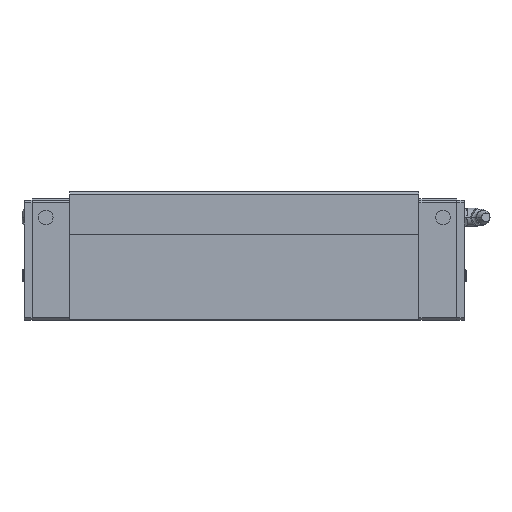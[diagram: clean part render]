
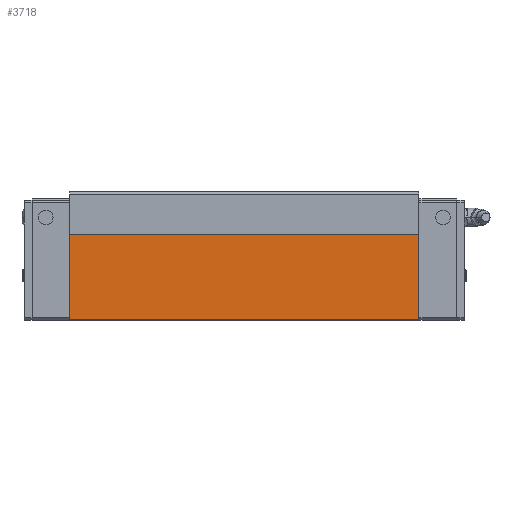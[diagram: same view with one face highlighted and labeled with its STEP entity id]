
A CAD part, left-side view. The second image highlights one B-rep face of the part: STEP entity #3718.
In plain terms, the highlighted planar face has unit normal (-1, 0, 0).
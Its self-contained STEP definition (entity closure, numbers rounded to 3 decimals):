
#1546=VERTEX_POINT('',#4459);
#1568=EDGE_CURVE('',#1882,#3446,#4484,.T.);
#1882=VERTEX_POINT('',#4836);
#1886=EDGE_CURVE('',#1546,#3446,#4840,.T.);
#2452=EDGE_CURVE('',#3780,#1546,#5472,.T.);
#2472=EDGE_CURVE('',#1882,#3780,#5494,.T.);
#3446=VERTEX_POINT('',#6586);
#3718=ADVANCED_FACE('',(#6877),#6878,.T.);
#3780=VERTEX_POINT('',#6944);
#4459=CARTESIAN_POINT('',(-61.75,230.1,15.25));
#4484=LINE('',#7760,#7761);
#4836=CARTESIAN_POINT('',(-61.75,26.5,65.0));
#4840=LINE('',#8270,#8271);
#5472=LINE('',#9226,#9227);
#5494=LINE('',#9260,#9261);
#6586=CARTESIAN_POINT('',(-61.75,230.1,65.0));
#6877=FACE_OUTER_BOUND('',#11341,.T.);
#6878=PLANE('',#11342);
#6944=CARTESIAN_POINT('',(-61.75,26.5,15.25));
#7760=CARTESIAN_POINT('',(-61.75,128.3,65.0));
#7761=VECTOR('',#12554,1.0);
#8270=CARTESIAN_POINT('',(-61.75,230.1,36.25));
#8271=VECTOR('',#12987,1.0);
#9226=CARTESIAN_POINT('',(-61.75,179.2,15.25));
#9227=VECTOR('',#13752,1.0);
#9260=CARTESIAN_POINT('',(-61.75,26.5,36.25));
#9261=VECTOR('',#13774,1.0);
#11341=EDGE_LOOP('',(#15268,#15269,#15270,#15271));
#11342=AXIS2_PLACEMENT_3D('',#15272,#15273,#15274);
#12554=DIRECTION('',(0.0,1.0,0.0));
#12987=DIRECTION('',(0.0,0.0,1.0));
#13752=DIRECTION('',(0.0,1.0,-0.0));
#13774=DIRECTION('',(-0.0,-0.0,-1.0));
#15268=ORIENTED_EDGE('',*,*,#1886,.F.);
#15269=ORIENTED_EDGE('',*,*,#2452,.F.);
#15270=ORIENTED_EDGE('',*,*,#2472,.F.);
#15271=ORIENTED_EDGE('',*,*,#1568,.T.);
#15272=CARTESIAN_POINT('',(-61.75,128.3,20.0));
#15273=DIRECTION('',(-1.0,0.0,0.0));
#15274=DIRECTION('',(0.0,0.0,1.0));
